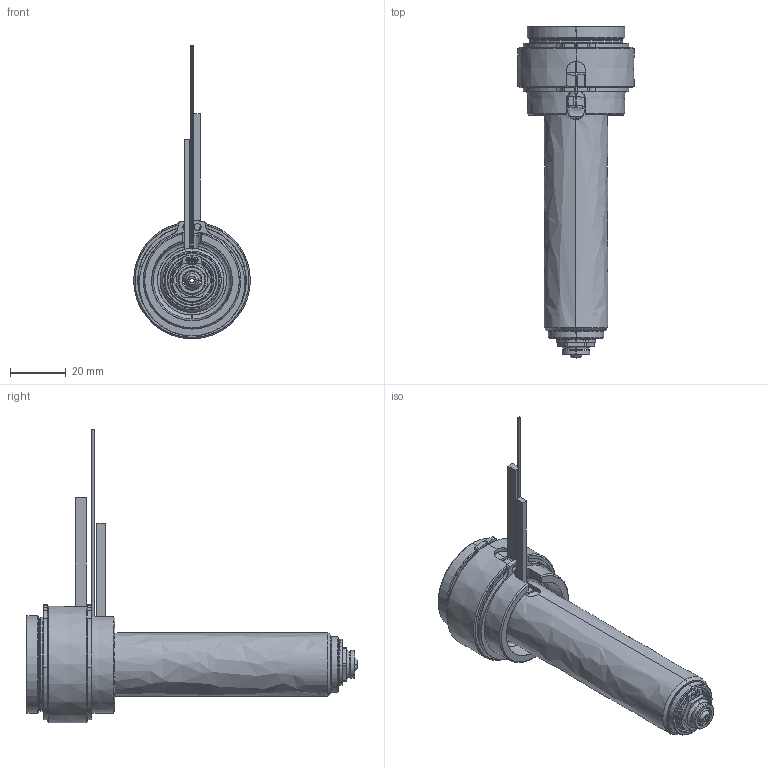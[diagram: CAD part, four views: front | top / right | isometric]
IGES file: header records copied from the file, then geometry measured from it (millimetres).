
Start section: SolidWorks IGES file using analytic representation for surfaces
Global section: file name: C:\Documents and Settings\ws-20\Desktop\TEM\UGER3552-S-A-0 [Øb-1.70  ØC-7.0].IGS; native system: SolidWorks 2012; preprocessor: SolidWorks 2012; author: ws-20; date: 120410.100719; units: millimetre
Bounding box: 42 x 119.4 x 105.6 mm (x, y, z)
Surface area: 38398.6 mm2 (no closed solid volume)
Topology: 0 solids, 0 shells, 211 faces, 3612 edges, 3612 vertices
Faces by surface type: revolution 136, bspline 75
